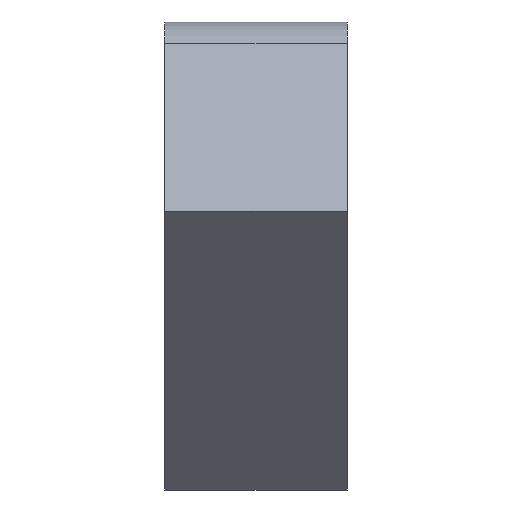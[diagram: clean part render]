
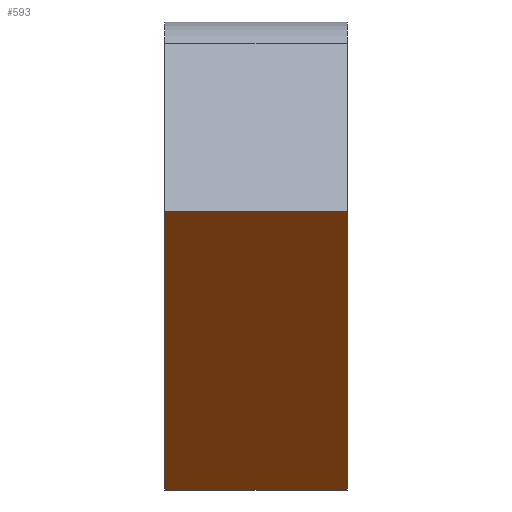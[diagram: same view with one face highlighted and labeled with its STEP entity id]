
A CAD part, front view. The second image highlights one B-rep face of the part: STEP entity #593.
In plain terms, the highlighted planar face has unit normal (0, -0.707, -0.707).
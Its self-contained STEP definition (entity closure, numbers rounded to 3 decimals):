
#43=PLANE('',#666);
#72=FACE_OUTER_BOUND('',#103,.T.);
#103=EDGE_LOOP('',(#508,#509,#510,#511));
#146=LINE('',#900,#203);
#149=LINE('',#910,#206);
#172=LINE('',#987,#229);
#173=LINE('',#989,#230);
#203=VECTOR('',#723,10.);
#206=VECTOR('',#734,10.);
#229=VECTOR('',#819,10.);
#230=VECTOR('',#822,10.);
#284=VERTEX_POINT('',#897);
#285=VERTEX_POINT('',#899);
#288=VERTEX_POINT('',#909);
#311=VERTEX_POINT('',#985);
#344=EDGE_CURVE('',#284,#285,#146,.T.);
#349=EDGE_CURVE('',#285,#288,#149,.T.);
#388=EDGE_CURVE('',#284,#311,#172,.T.);
#389=EDGE_CURVE('',#288,#311,#173,.T.);
#508=ORIENTED_EDGE('',*,*,#388,.T.);
#509=ORIENTED_EDGE('',*,*,#389,.F.);
#510=ORIENTED_EDGE('',*,*,#349,.F.);
#511=ORIENTED_EDGE('',*,*,#344,.F.);
#593=ADVANCED_FACE('',(#72),#43,.T.);
#666=AXIS2_PLACEMENT_3D('',#988,#820,#821);
#723=DIRECTION('',(0.,-0.707,0.707));
#734=DIRECTION('',(1.,0.,0.));
#819=DIRECTION('',(1.,0.,0.));
#820=DIRECTION('center_axis',(0.,-0.707,-0.707));
#821=DIRECTION('ref_axis',(0.,0.707,-0.707));
#822=DIRECTION('',(0.,0.707,-0.707));
#897=CARTESIAN_POINT('',(-12.5,2.121,-36.062));
#899=CARTESIAN_POINT('',(-12.5,-36.062,2.121));
#900=CARTESIAN_POINT('',(-12.5,-36.062,2.121));
#909=CARTESIAN_POINT('',(12.5,-36.062,2.121));
#910=CARTESIAN_POINT('',(0.,-36.062,2.121));
#985=CARTESIAN_POINT('',(12.5,2.121,-36.062));
#987=CARTESIAN_POINT('',(0.,2.121,-36.062));
#988=CARTESIAN_POINT('Origin',(0.,-36.062,2.121));
#989=CARTESIAN_POINT('',(12.5,-36.062,2.121));
